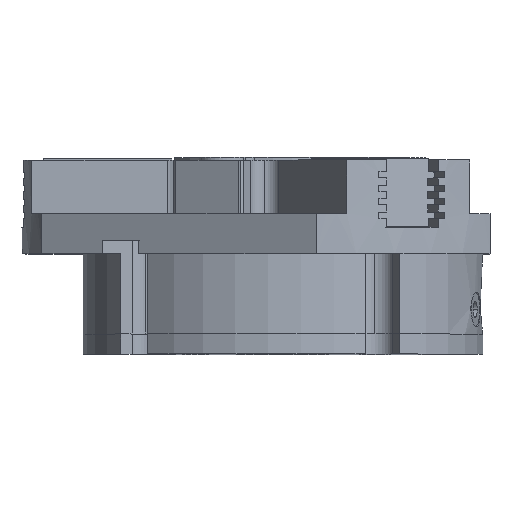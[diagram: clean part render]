
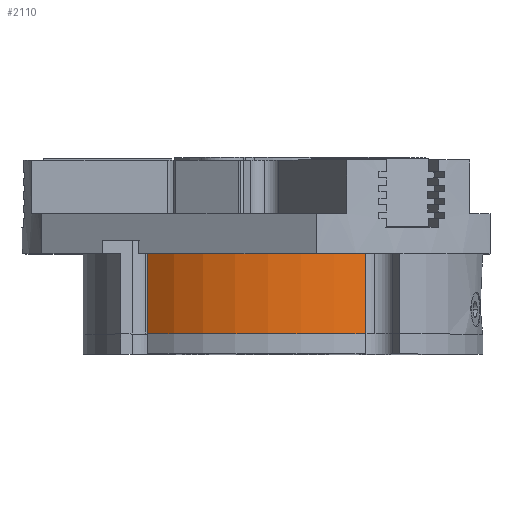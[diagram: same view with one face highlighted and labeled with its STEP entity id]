
A CAD part, top view. The second image highlights one B-rep face of the part: STEP entity #2110.
In plain terms, the highlighted cylindrical face has radius 150 mm (diameter 300 mm), a partial arc.
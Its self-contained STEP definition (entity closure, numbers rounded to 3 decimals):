
#277 = LINE ( 'NONE', #10720, #9607 ) ;
#671 = CARTESIAN_POINT ( 'NONE',  ( 0., 130., 0. ) ) ;
#965 = CARTESIAN_POINT ( 'NONE',  ( -100.876, 130., -111.014 ) ) ;
#1341 = CYLINDRICAL_SURFACE ( 'NONE', #11314, 150. ) ;
#1873 = ORIENTED_EDGE ( 'NONE', *, *, #8514, .F. ) ;
#1996 = VERTEX_POINT ( 'NONE', #5128 ) ;
#2000 = AXIS2_PLACEMENT_3D ( 'NONE', #671, #3137, #6815 ) ;
#2039 = CIRCLE ( 'NONE', #2000, 150. ) ;
#2110 = ADVANCED_FACE ( 'NONE', ( #4587 ), #1341, .T. ) ;
#2706 = DIRECTION ( 'NONE',  ( 0., -1., 0. ) ) ;
#3090 = DIRECTION ( 'NONE',  ( 0., 1., 0. ) ) ;
#3137 = DIRECTION ( 'NONE',  ( 0., 1., 0. ) ) ;
#3214 = VERTEX_POINT ( 'NONE', #4175 ) ;
#4175 = CARTESIAN_POINT ( 'NONE',  ( -100.876, 70., -111.014 ) ) ;
#4587 = FACE_OUTER_BOUND ( 'NONE', #15158, .T. ) ;
#4709 = ORIENTED_EDGE ( 'NONE', *, *, #14617, .T. ) ;
#5128 = CARTESIAN_POINT ( 'NONE',  ( 61.634, 70., -136.753 ) ) ;
#5295 = CARTESIAN_POINT ( 'NONE',  ( 0., 70., 0. ) ) ;
#5406 = DIRECTION ( 'NONE',  ( 0., 1., 0. ) ) ;
#5506 = DIRECTION ( 'NONE',  ( 0., 0., 1. ) ) ;
#5560 = AXIS2_PLACEMENT_3D ( 'NONE', #6660, #3090, #5506 ) ;
#5732 = EDGE_CURVE ( 'NONE', #3214, #10210, #277, .T. ) ;
#6660 = CARTESIAN_POINT ( 'NONE',  ( 0., 70., 0. ) ) ;
#6815 = DIRECTION ( 'NONE',  ( 0., 0., 1. ) ) ;
#6838 = ORIENTED_EDGE ( 'NONE', *, *, #5732, .T. ) ;
#7746 = DIRECTION ( 'NONE',  ( 0., 0., 1. ) ) ;
#8514 = EDGE_CURVE ( 'NONE', #14382, #10210, #2039, .T. ) ;
#9607 = VECTOR ( 'NONE', #13288, 1000. ) ;
#10013 = EDGE_CURVE ( 'NONE', #14382, #1996, #12362, .T. ) ;
#10210 = VERTEX_POINT ( 'NONE', #965 ) ;
#10720 = CARTESIAN_POINT ( 'NONE',  ( -100.876, 10.082, -111.014 ) ) ;
#11314 = AXIS2_PLACEMENT_3D ( 'NONE', #5295, #5406, #7746 ) ;
#11585 = VECTOR ( 'NONE', #2706, 1000. ) ;
#12076 = ORIENTED_EDGE ( 'NONE', *, *, #10013, .T. ) ;
#12362 = LINE ( 'NONE', #12758, #11585 ) ;
#12758 = CARTESIAN_POINT ( 'NONE',  ( 61.634, 70., -136.753 ) ) ;
#13288 = DIRECTION ( 'NONE',  ( 0., 1., 0. ) ) ;
#14382 = VERTEX_POINT ( 'NONE', #14941 ) ;
#14617 = EDGE_CURVE ( 'NONE', #1996, #3214, #14730, .T. ) ;
#14730 = CIRCLE ( 'NONE', #5560, 150. ) ;
#14941 = CARTESIAN_POINT ( 'NONE',  ( 61.634, 130., -136.753 ) ) ;
#15158 = EDGE_LOOP ( 'NONE', ( #12076, #4709, #6838, #1873 ) ) ;
